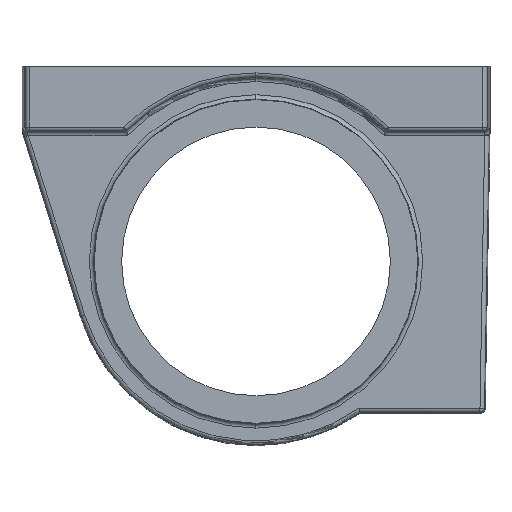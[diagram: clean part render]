
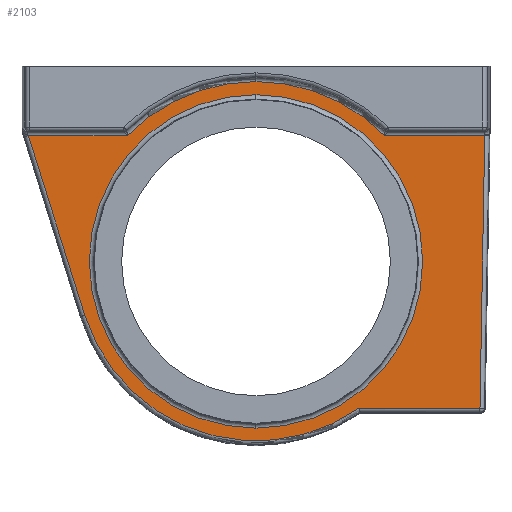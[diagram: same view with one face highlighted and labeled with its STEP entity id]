
A CAD part, front view. The second image highlights one B-rep face of the part: STEP entity #2103.
In plain terms, the highlighted planar face has unit normal (0, -1, 0).
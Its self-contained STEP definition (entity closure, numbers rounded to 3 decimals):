
#24 = VERTEX_POINT ( 'NONE', #3487 ) ;
#115 = LINE ( 'NONE', #2858, #1234 ) ;
#118 = DIRECTION ( 'NONE',  ( 0., 0., 1. ) ) ;
#171 = CIRCLE ( 'NONE', #637, 41.395 ) ;
#224 = VERTEX_POINT ( 'NONE', #1229 ) ;
#253 = VERTEX_POINT ( 'NONE', #2519 ) ;
#285 = DIRECTION ( 'NONE',  ( 0., 0., 1. ) ) ;
#308 = EDGE_CURVE ( 'NONE', #3516, #253, #764, .T. ) ;
#384 = VECTOR ( 'NONE', #1546, 1000. ) ;
#403 = DIRECTION ( 'NONE',  ( 0., 1., 0. ) ) ;
#423 = CARTESIAN_POINT ( 'NONE',  ( 0., -13., 2. ) ) ;
#440 = ORIENTED_EDGE ( 'NONE', *, *, #1686, .T. ) ;
#451 = CARTESIAN_POINT ( 'NONE',  ( -29.686, -13., -10.5 ) ) ;
#502 = AXIS2_PLACEMENT_3D ( 'NONE', #2846, #403, #946 ) ;
#523 = ORIENTED_EDGE ( 'NONE', *, *, #2037, .T. ) ;
#540 = EDGE_CURVE ( 'NONE', #2044, #4031, #1734, .T. ) ;
#587 = ORIENTED_EDGE ( 'NONE', *, *, #1537, .T. ) ;
#631 = DIRECTION ( 'NONE',  ( 0.3, 0., -0.954 ) ) ;
#637 = AXIS2_PLACEMENT_3D ( 'NONE', #3751, #1924, #285 ) ;
#695 = CARTESIAN_POINT ( 'NONE',  ( 0., -13., -39.5 ) ) ;
#742 = ORIENTED_EDGE ( 'NONE', *, *, #540, .T. ) ;
#751 = DIRECTION ( 'NONE',  ( 0., 0., 1. ) ) ;
#764 = CIRCLE ( 'NONE', #502, 38.465 ) ;
#803 = VERTEX_POINT ( 'NONE', #3747 ) ;
#885 = VECTOR ( 'NONE', #631, 1000. ) ;
#902 = EDGE_CURVE ( 'NONE', #2511, #224, #2186, .T. ) ;
#946 = DIRECTION ( 'NONE',  ( 0., 0., 1. ) ) ;
#1045 = DIRECTION ( 'NONE',  ( 0., -1., 0. ) ) ;
#1058 = DIRECTION ( 'NONE',  ( -1., 0., 0. ) ) ;
#1096 = LINE ( 'NONE', #1999, #2266 ) ;
#1144 = ORIENTED_EDGE ( 'NONE', *, *, #3161, .T. ) ;
#1193 = EDGE_CURVE ( 'NONE', #3769, #2511, #1096, .T. ) ;
#1219 = CARTESIAN_POINT ( 'NONE',  ( 52.64, -13., -73.395 ) ) ;
#1229 = CARTESIAN_POINT ( 'NONE',  ( -39.485, -13., -51.93 ) ) ;
#1234 = VECTOR ( 'NONE', #3798, 1000. ) ;
#1373 = DIRECTION ( 'NONE',  ( 0., -1., 0. ) ) ;
#1467 = LINE ( 'NONE', #2432, #3569 ) ;
#1537 = EDGE_CURVE ( 'NONE', #24, #2044, #1467, .T. ) ;
#1546 = DIRECTION ( 'NONE',  ( 1., 0., 0. ) ) ;
#1653 = DIRECTION ( 'NONE',  ( 0., 1., 0. ) ) ;
#1680 = AXIS2_PLACEMENT_3D ( 'NONE', #2897, #1653, #118 ) ;
#1686 = EDGE_CURVE ( 'NONE', #224, #3141, #171, .T. ) ;
#1724 = EDGE_LOOP ( 'NONE', ( #2098, #3366 ) ) ;
#1734 = CIRCLE ( 'NONE', #2140, 41.5 ) ;
#1755 = CIRCLE ( 'NONE', #3707, 41.5 ) ;
#1798 = EDGE_CURVE ( 'NONE', #253, #3516, #1806, .T. ) ;
#1806 = CIRCLE ( 'NONE', #1680, 38.465 ) ;
#1924 = DIRECTION ( 'NONE',  ( 0., -1., 0. ) ) ;
#1969 = CARTESIAN_POINT ( 'NONE',  ( 23.763, -13., -73.395 ) ) ;
#1999 = CARTESIAN_POINT ( 'NONE',  ( -53.763, -13., -10.5 ) ) ;
#2037 = EDGE_CURVE ( 'NONE', #3141, #803, #3123, .T. ) ;
#2044 = VERTEX_POINT ( 'NONE', #2146 ) ;
#2067 = DIRECTION ( 'NONE',  ( -1., 0., 0. ) ) ;
#2098 = ORIENTED_EDGE ( 'NONE', *, *, #308, .T. ) ;
#2103 = ADVANCED_FACE ( 'NONE', ( #2789, #2231 ), #3726, .F. ) ;
#2140 = AXIS2_PLACEMENT_3D ( 'NONE', #695, #1045, #751 ) ;
#2146 = CARTESIAN_POINT ( 'NONE',  ( 29.686, -13., -10.5 ) ) ;
#2186 = LINE ( 'NONE', #3370, #885 ) ;
#2231 = FACE_BOUND ( 'NONE', #1724, .T. ) ;
#2266 = VECTOR ( 'NONE', #1058, 1000. ) ;
#2267 = CARTESIAN_POINT ( 'NONE',  ( 0., -13., -1.035 ) ) ;
#2432 = CARTESIAN_POINT ( 'NONE',  ( 30.104, -13., -10.5 ) ) ;
#2511 = VERTEX_POINT ( 'NONE', #3951 ) ;
#2519 = CARTESIAN_POINT ( 'NONE',  ( 0., -13., -77.965 ) ) ;
#2583 = CARTESIAN_POINT ( 'NONE',  ( 0., -13., -39.5 ) ) ;
#2623 = ORIENTED_EDGE ( 'NONE', *, *, #3580, .T. ) ;
#2749 = ORIENTED_EDGE ( 'NONE', *, *, #902, .T. ) ;
#2750 = DIRECTION ( 'NONE',  ( 0., 0., 1. ) ) ;
#2789 = FACE_OUTER_BOUND ( 'NONE', #3857, .T. ) ;
#2846 = CARTESIAN_POINT ( 'NONE',  ( 0., -13., -39.5 ) ) ;
#2858 = CARTESIAN_POINT ( 'NONE',  ( 52.781, -13., -10.054 ) ) ;
#2897 = CARTESIAN_POINT ( 'NONE',  ( 0., -13., -39.5 ) ) ;
#2900 = DIRECTION ( 'NONE',  ( 0., 0., 1. ) ) ;
#3123 = LINE ( 'NONE', #1219, #384 ) ;
#3141 = VERTEX_POINT ( 'NONE', #1969 ) ;
#3161 = EDGE_CURVE ( 'NONE', #4031, #3769, #1755, .T. ) ;
#3366 = ORIENTED_EDGE ( 'NONE', *, *, #1798, .T. ) ;
#3370 = CARTESIAN_POINT ( 'NONE',  ( -39.485, -13., -51.93 ) ) ;
#3448 = AXIS2_PLACEMENT_3D ( 'NONE', #3473, #4034, #2750 ) ;
#3473 = CARTESIAN_POINT ( 'NONE',  ( 0., -13., -39.5 ) ) ;
#3487 = CARTESIAN_POINT ( 'NONE',  ( 52.773, -13., -10.5 ) ) ;
#3516 = VERTEX_POINT ( 'NONE', #2267 ) ;
#3542 = ORIENTED_EDGE ( 'NONE', *, *, #1193, .T. ) ;
#3569 = VECTOR ( 'NONE', #2067, 1000. ) ;
#3580 = EDGE_CURVE ( 'NONE', #803, #24, #115, .T. ) ;
#3707 = AXIS2_PLACEMENT_3D ( 'NONE', #2583, #1373, #2900 ) ;
#3726 = PLANE ( 'NONE',  #3448 ) ;
#3747 = CARTESIAN_POINT ( 'NONE',  ( 51.675, -13., -73.395 ) ) ;
#3751 = CARTESIAN_POINT ( 'NONE',  ( 0., -13., -39.5 ) ) ;
#3769 = VERTEX_POINT ( 'NONE', #451 ) ;
#3798 = DIRECTION ( 'NONE',  ( 0.017, 0., 1. ) ) ;
#3857 = EDGE_LOOP ( 'NONE', ( #742, #1144, #3542, #2749, #440, #523, #2623, #587 ) ) ;
#3951 = CARTESIAN_POINT ( 'NONE',  ( -52.527, -13., -10.5 ) ) ;
#4031 = VERTEX_POINT ( 'NONE', #423 ) ;
#4034 = DIRECTION ( 'NONE',  ( 0., 1., 0. ) ) ;
